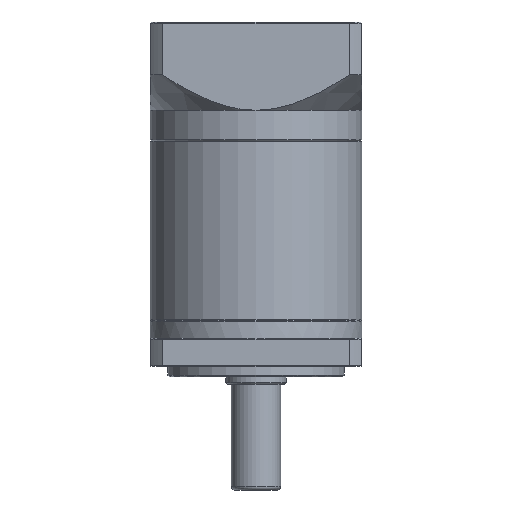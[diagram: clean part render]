
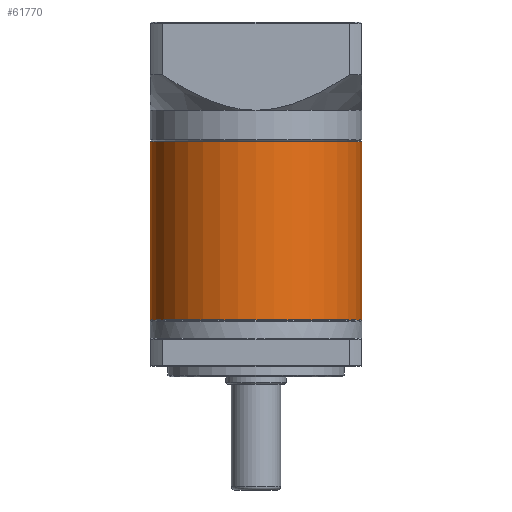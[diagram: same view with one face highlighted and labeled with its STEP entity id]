
A CAD part, front view. The second image highlights one B-rep face of the part: STEP entity #61770.
In plain terms, the highlighted cylindrical face has radius 30 mm (diameter 60 mm), a partial arc.
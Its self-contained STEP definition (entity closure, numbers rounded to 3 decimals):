
#3111 = CARTESIAN_POINT ( 'NONE',  ( -32.968, 26.169, -40.492 ) ) ;
#9457 = VERTEX_POINT ( 'NONE', #38947 ) ;
#10435 = DIRECTION ( 'NONE',  ( 1., 0., 0. ) ) ;
#10963 = VECTOR ( 'NONE', #26357, 1000. ) ;
#18044 = ORIENTED_EDGE ( 'NONE', *, *, #90651, .T. ) ;
#18932 = CARTESIAN_POINT ( 'NONE',  ( -32.968, 26.169, -90.792 ) ) ;
#20180 = DIRECTION ( 'NONE',  ( 0., 0., -1. ) ) ;
#20919 = LINE ( 'NONE', #50664, #10963 ) ;
#26357 = DIRECTION ( 'NONE',  ( 0., 0., -1. ) ) ;
#35450 = CARTESIAN_POINT ( 'NONE',  ( -62.968, 26.169, -40.492 ) ) ;
#35865 = VECTOR ( 'NONE', #71560, 1000. ) ;
#36257 = ORIENTED_EDGE ( 'NONE', *, *, #69478, .T. ) ;
#38947 = CARTESIAN_POINT ( 'NONE',  ( -2.968, 26.169, -90.792 ) ) ;
#39459 = VERTEX_POINT ( 'NONE', #39879 ) ;
#39879 = CARTESIAN_POINT ( 'NONE',  ( -2.968, 26.169, -40.492 ) ) ;
#41092 = ORIENTED_EDGE ( 'NONE', *, *, #101995, .T. ) ;
#47191 = CARTESIAN_POINT ( 'NONE',  ( -62.968, 26.169, -90.792 ) ) ;
#49786 = AXIS2_PLACEMENT_3D ( 'NONE', #18932, #83211, #76191 ) ;
#50664 = CARTESIAN_POINT ( 'NONE',  ( -2.968, 26.169, -40.242 ) ) ;
#56111 = AXIS2_PLACEMENT_3D ( 'NONE', #60668, #20180, #59285 ) ;
#59285 = DIRECTION ( 'NONE',  ( -1., 0., 0. ) ) ;
#60668 = CARTESIAN_POINT ( 'NONE',  ( -32.968, 26.169, -40.242 ) ) ;
#61770 = ADVANCED_FACE ( 'NONE', ( #77071 ), #69559, .T. ) ;
#67608 = DIRECTION ( 'NONE',  ( 0., 0., -1. ) ) ;
#69063 = EDGE_CURVE ( 'NONE', #39459, #9457, #20919, .T. ) ;
#69424 = CIRCLE ( 'NONE', #93694, 30. ) ;
#69478 = EDGE_CURVE ( 'NONE', #82622, #87800, #95951, .T. ) ;
#69559 = CYLINDRICAL_SURFACE ( 'NONE', #56111, 30. ) ;
#71560 = DIRECTION ( 'NONE',  ( 0., 0., -1. ) ) ;
#76191 = DIRECTION ( 'NONE',  ( 1., 0., 0. ) ) ;
#77071 = FACE_OUTER_BOUND ( 'NONE', #96642, .T. ) ;
#79925 = CARTESIAN_POINT ( 'NONE',  ( -62.968, 26.169, -40.242 ) ) ;
#81946 = CIRCLE ( 'NONE', #49786, 30. ) ;
#82622 = VERTEX_POINT ( 'NONE', #35450 ) ;
#83211 = DIRECTION ( 'NONE',  ( 0., 0., 1. ) ) ;
#87800 = VERTEX_POINT ( 'NONE', #47191 ) ;
#90651 = EDGE_CURVE ( 'NONE', #87800, #9457, #81946, .T. ) ;
#93694 = AXIS2_PLACEMENT_3D ( 'NONE', #3111, #67608, #10435 ) ;
#95951 = LINE ( 'NONE', #79925, #35865 ) ;
#96642 = EDGE_LOOP ( 'NONE', ( #100026, #41092, #36257, #18044 ) ) ;
#100026 = ORIENTED_EDGE ( 'NONE', *, *, #69063, .F. ) ;
#101995 = EDGE_CURVE ( 'NONE', #39459, #82622, #69424, .T. ) ;
